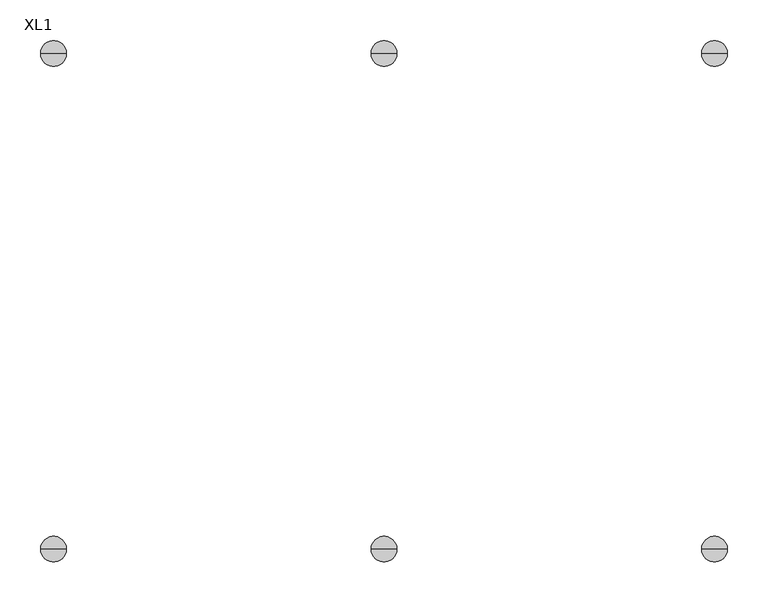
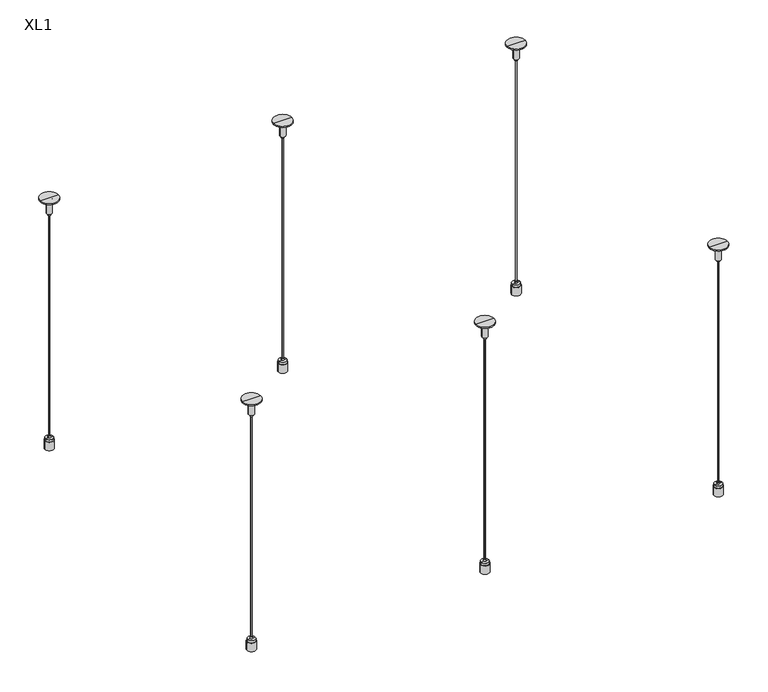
"""IFC4 building model written with IfcOpenShell, lengths in millimetres: proxy geometry, OWA Corpus : XL1."""

from ifc_helpers import new_model, si_unit, point, frame, frame_2d, origin, place, context, project, spatial, polyline, circle_curve, trimmed, segment, composite_curve, outline, extrude, source, transform, mapped, element, save
from ifc_brep_helpers import plane_surface, cylinder_surface, revolved_surface, advanced_brep


def xl1_91a5b90b(model_context):
    return source(origin(), model_context, "Body", "SolidModel", [
        advanced_brep(
        [(176.5, -305.0, 0.0), (184.2406175, -305.0, 0.0), (168.7593825, -305.0, 0.0), (184.2406175, -305.0, 15.0), (168.7593825, -305.0, 15.0), (183.3156175, -305.0, 15.0), (169.6843825, -305.0, 15.0), (183.3156175, -305.0, 19.0), (169.6843825, -305.0, 19.0), (178.5656175, -305.0, 19.0), (174.4343825, -305.0, 19.0), (178.5656175, -305.0, 22.546183), (174.4343825, -305.0, 22.546183), (176.5, -305.0, 22.546183)],
        [
            (0, 1),
            (1, 2, circle_curve(frame((176.5, -305.0, 0.0), z_axis=(0.0, 0.0, -1.0), x_axis=(-1.0, 0.0, 0.0)), 7.7406175)),
            (2, 0),
            (2, 1, circle_curve(frame((176.5, -305.0, 0.0), z_axis=(0.0, 0.0, -1.0), x_axis=(-1.0, 0.0, 0.0)), 7.7406175)),
            (1, 3),
            (3, 4, circle_curve(frame((176.5, -305.0, 15.0), z_axis=(0.0, 0.0, -1.0), x_axis=(-1.0, 0.0, 0.0)), 7.7406175)),
            (4, 2),
            (4, 3, circle_curve(frame((176.5, -305.0, 15.0), z_axis=(0.0, 0.0, -1.0), x_axis=(-1.0, 0.0, 0.0)), 7.7406175)),
            (3, 5),
            (5, 6, circle_curve(frame((176.5, -305.0, 15.0), z_axis=(0.0, 0.0, -1.0), x_axis=(-1.0, 0.0, 0.0)), 6.8156175)),
            (6, 4),
            (6, 5, circle_curve(frame((176.5, -305.0, 15.0), z_axis=(0.0, 0.0, -1.0), x_axis=(-1.0, 0.0, 0.0)), 6.8156175)),
            (5, 7),
            (7, 8, circle_curve(frame((176.5, -305.0, 19.0), z_axis=(0.0, 0.0, -1.0), x_axis=(-1.0, 0.0, 0.0)), 6.8156175)),
            (8, 6),
            (8, 7, circle_curve(frame((176.5, -305.0, 19.0), z_axis=(0.0, 0.0, -1.0), x_axis=(-1.0, 0.0, 0.0)), 6.8156175)),
            (7, 9),
            (9, 10, circle_curve(frame((176.5, -305.0, 19.0), z_axis=(0.0, 0.0, -1.0), x_axis=(-1.0, 0.0, 0.0)), 2.0656175)),
            (10, 8),
            (10, 9, circle_curve(frame((176.5, -305.0, 19.0), z_axis=(0.0, 0.0, -1.0), x_axis=(-1.0, 0.0, 0.0)), 2.0656175)),
            (9, 11),
            (11, 12, circle_curve(frame((176.5, -305.0, 22.546183), z_axis=(0.0, 0.0, -1.0), x_axis=(-1.0, 0.0, 0.0)), 2.0656175)),
            (12, 10),
            (12, 11, circle_curve(frame((176.5, -305.0, 22.546183), z_axis=(0.0, 0.0, -1.0), x_axis=(-1.0, 0.0, 0.0)), 2.0656175)),
            (11, 13),
            (13, 12),
        ],
        [
            plane_surface(frame((176.5, -305.0, 0.0), z_axis=(0.0, 0.0, -1.0), x_axis=(-1.0, 0.0, 0.0))),
            cylinder_surface(frame((176.5, -305.0, -10.0), z_axis=(0.0, 0.0, -1.0), x_axis=(-1.0, 0.0, 0.0)), 7.7406175),
            plane_surface(frame((176.5, -305.0, 15.0), z_axis=(0.0, 0.0, 1.0), x_axis=(-1.0, 0.0, 0.0))),
            cylinder_surface(frame((176.5, -305.0, -10.0), z_axis=(0.0, 0.0, -1.0), x_axis=(-1.0, 0.0, 0.0)), 6.8156175),
            plane_surface(frame((176.5, -305.0, 19.0), z_axis=(0.0, 0.0, 1.0), x_axis=(-1.0, 0.0, 0.0))),
            cylinder_surface(frame((176.5, -305.0, -10.0), z_axis=(0.0, 0.0, -1.0), x_axis=(-1.0, 0.0, 0.0)), 2.0656175),
            plane_surface(frame((176.5, -305.0, 22.546183), z_axis=(0.0, 0.0, 1.0), x_axis=(-1.0, 0.0, 0.0))),
        ],
        [
            (0, [[1, 2, 3]]),
            (0, [[-3, 4, -1]]),
            (1, [[5, 6, 7, -2]]),
            (1, [[-7, 8, -5, -4]]),
            (2, [[9, 10, 11, -6]]),
            (2, [[-11, 12, -9, -8]]),
            (3, [[13, 14, 15, -10]]),
            (3, [[-15, 16, -13, -12]]),
            (4, [[17, 18, 19, -14]]),
            (4, [[-19, 20, -17, -16]]),
            (5, [[21, 22, 23, -18]]),
            (5, [[-23, 24, -21, -20]]),
            (6, [[25, 26, -22]]),
            (6, [[-26, -25, -24]]),
        ],
    ),
        advanced_brep(
        [(178.7384611, -305.0, 428.8211737), (178.8660547, -305.0, 432.8711737), (174.1339453, -305.0, 432.8711737), (174.2615389, -305.0, 428.8211737), (181.3660547, -305.0, 432.8711737), (171.6339453, -305.0, 432.8711737), (181.3660547, -305.0, 458.1211737), (171.6339453, -305.0, 458.1211737), (192.3660547, -305.0, 458.1211737), (160.6339453, -305.0, 458.1211737), (192.3660547, -305.0, 460.0), (160.6339453, -305.0, 460.0), (176.5, -305.0, 460.0), (176.5, -305.0, 428.8211737)],
        [
            (0, 1),
            (1, 2, circle_curve(frame((176.5, -305.0, 432.8711737), z_axis=(0.0, 0.0, -1.0), x_axis=(-1.0, 0.0, 0.0)), 2.3660547)),
            (2, 3),
            (3, 0, circle_curve(frame((176.5, -305.0, 428.8211737), z_axis=(0.0, 0.0, 1.0), x_axis=(-1.0, 0.0, 0.0)), 2.2384611)),
            (2, 1, circle_curve(frame((176.5, -305.0, 432.8711737), z_axis=(0.0, 0.0, -1.0), x_axis=(-1.0, 0.0, 0.0)), 2.3660547)),
            (0, 3, circle_curve(frame((176.5, -305.0, 428.8211737), z_axis=(0.0, 0.0, 1.0), x_axis=(-1.0, 0.0, 0.0)), 2.2384611)),
            (1, 4),
            (4, 5, circle_curve(frame((176.5, -305.0, 432.8711737), z_axis=(0.0, 0.0, -1.0), x_axis=(-1.0, 0.0, 0.0)), 4.8660547)),
            (5, 2),
            (5, 4, circle_curve(frame((176.5, -305.0, 432.8711737), z_axis=(0.0, 0.0, -1.0), x_axis=(-1.0, 0.0, 0.0)), 4.8660547)),
            (4, 6),
            (6, 7, circle_curve(frame((176.5, -305.0, 458.1211737), z_axis=(0.0, 0.0, -1.0), x_axis=(-1.0, 0.0, 0.0)), 4.8660547)),
            (7, 5),
            (7, 6, circle_curve(frame((176.5, -305.0, 458.1211737), z_axis=(0.0, 0.0, -1.0), x_axis=(-1.0, 0.0, 0.0)), 4.8660547)),
            (6, 8),
            (8, 9, circle_curve(frame((176.5, -305.0, 458.1211737), z_axis=(0.0, 0.0, -1.0), x_axis=(-1.0, 0.0, 0.0)), 15.8660547)),
            (9, 7),
            (9, 8, circle_curve(frame((176.5, -305.0, 458.1211737), z_axis=(0.0, 0.0, -1.0), x_axis=(-1.0, 0.0, 0.0)), 15.8660547)),
            (8, 10),
            (10, 11, circle_curve(frame((176.5, -305.0, 460.0), z_axis=(0.0, 0.0, -1.0), x_axis=(-1.0, 0.0, 0.0)), 15.8660547)),
            (11, 9),
            (11, 10, circle_curve(frame((176.5, -305.0, 460.0), z_axis=(0.0, 0.0, -1.0), x_axis=(-1.0, 0.0, 0.0)), 15.8660547)),
            (10, 12),
            (12, 11),
            (13, 0),
            (3, 13),
        ],
        [
            revolved_surface(polyline([(174.1339453, -305.0, 432.8711737), (174.2615389, -305.0, 428.8211737)]), (176.5, -305.0, 461.8401096), (0.0, 0.0, -1.0)),
            plane_surface(frame((176.5, -305.0, 432.8711737), z_axis=(0.0, 0.0, -1.0), x_axis=(-1.0, 0.0, 0.0))),
            cylinder_surface(frame((176.5, -305.0, 461.8401096), z_axis=(0.0, 0.0, -1.0), x_axis=(-1.0, 0.0, 0.0)), 4.8660547),
            plane_surface(frame((176.5, -305.0, 458.1211737), z_axis=(0.0, 0.0, -1.0), x_axis=(-1.0, 0.0, 0.0))),
            cylinder_surface(frame((176.5, -305.0, 461.8401096), z_axis=(0.0, 0.0, -1.0), x_axis=(-1.0, 0.0, 0.0)), 15.8660547),
            plane_surface(frame((176.5, -305.0, 460.0), z_axis=(0.0, 0.0, 1.0), x_axis=(-1.0, 0.0, 0.0))),
            plane_surface(frame((176.5, -305.0, 428.8211737), z_axis=(0.0, 0.0, -1.0), x_axis=(-1.0, 0.0, 0.0))),
        ],
        [
            (0, [[1, 2, 3, 4]]),
            (0, [[-3, 5, -1, 6]]),
            (1, [[7, 8, 9, -2]]),
            (1, [[-9, 10, -7, -5]]),
            (2, [[11, 12, 13, -8]]),
            (2, [[-13, 14, -11, -10]]),
            (3, [[15, 16, 17, -12]]),
            (3, [[-17, 18, -15, -14]]),
            (4, [[19, 20, 21, -16]]),
            (4, [[-21, 22, -19, -18]]),
            (5, [[23, 24, -20]]),
            (5, [[-24, -23, -22]]),
            (6, [[25, -4, 26]]),
            (6, [[-26, -6, -25]]),
        ],
    ),
        extrude(outline(composite_curve([segment(trimmed(circle_curve(frame_2d((176.5, -305.0)), 1.0), [point((175.5, -305.0))], [point((177.5, -305.0))], False, "CARTESIAN"), True, "CONTINUOUS"), segment(trimmed(circle_curve(frame_2d((176.5, -305.0)), 1.0), [point((177.5, -305.0))], [point((175.5, -305.0))], False, "CARTESIAN"), True, "CONTINUOUS")], self_intersect=False)), frame((0.0, 0.0, 22.546183), z_axis=(0.0, 0.0, 1.0), x_axis=(1.0, 0.0, 0.0)), (0.0, 0.0, 1.0), 406.2749908),
        advanced_brep(
        [(176.5, 305.0, 0.0), (168.7593825, 305.0, 0.0), (184.2406175, 305.0, 0.0), (168.7593825, 305.0, 15.0), (184.2406175, 305.0, 15.0), (169.6843825, 305.0, 15.0), (183.3156175, 305.0, 15.0), (169.6843825, 305.0, 19.0), (183.3156175, 305.0, 19.0), (174.4343825, 305.0, 19.0), (178.5656175, 305.0, 19.0), (174.4343825, 305.0, 22.546183), (178.5656175, 305.0, 22.546183), (176.5, 305.0, 22.546183)],
        [
            (0, 1),
            (1, 2, circle_curve(frame((176.5, 305.0, 0.0), z_axis=(0.0, 0.0, -1.0), x_axis=(-1.0, 0.0, 0.0)), 7.7406175)),
            (2, 0),
            (2, 1, circle_curve(frame((176.5, 305.0, 0.0), z_axis=(0.0, 0.0, -1.0), x_axis=(-1.0, 0.0, 0.0)), 7.7406175)),
            (1, 3),
            (3, 4, circle_curve(frame((176.5, 305.0, 15.0), z_axis=(0.0, 0.0, -1.0), x_axis=(-1.0, 0.0, 0.0)), 7.7406175)),
            (4, 2),
            (4, 3, circle_curve(frame((176.5, 305.0, 15.0), z_axis=(0.0, 0.0, -1.0), x_axis=(-1.0, 0.0, 0.0)), 7.7406175)),
            (3, 5),
            (5, 6, circle_curve(frame((176.5, 305.0, 15.0), z_axis=(0.0, 0.0, -1.0), x_axis=(-1.0, 0.0, 0.0)), 6.8156175)),
            (6, 4),
            (6, 5, circle_curve(frame((176.5, 305.0, 15.0), z_axis=(0.0, 0.0, -1.0), x_axis=(-1.0, 0.0, 0.0)), 6.8156175)),
            (5, 7),
            (7, 8, circle_curve(frame((176.5, 305.0, 19.0), z_axis=(0.0, 0.0, -1.0), x_axis=(-1.0, 0.0, 0.0)), 6.8156175)),
            (8, 6),
            (8, 7, circle_curve(frame((176.5, 305.0, 19.0), z_axis=(0.0, 0.0, -1.0), x_axis=(-1.0, 0.0, 0.0)), 6.8156175)),
            (7, 9),
            (9, 10, circle_curve(frame((176.5, 305.0, 19.0), z_axis=(0.0, 0.0, -1.0), x_axis=(-1.0, 0.0, 0.0)), 2.0656175)),
            (10, 8),
            (10, 9, circle_curve(frame((176.5, 305.0, 19.0), z_axis=(0.0, 0.0, -1.0), x_axis=(-1.0, 0.0, 0.0)), 2.0656175)),
            (9, 11),
            (11, 12, circle_curve(frame((176.5, 305.0, 22.546183), z_axis=(0.0, 0.0, -1.0), x_axis=(-1.0, 0.0, 0.0)), 2.0656175)),
            (12, 10),
            (12, 11, circle_curve(frame((176.5, 305.0, 22.546183), z_axis=(0.0, 0.0, -1.0), x_axis=(-1.0, 0.0, 0.0)), 2.0656175)),
            (11, 13),
            (13, 12),
        ],
        [
            plane_surface(frame((176.5, 305.0, 0.0), z_axis=(0.0, 0.0, -1.0), x_axis=(-1.0, 0.0, 0.0))),
            cylinder_surface(frame((176.5, 305.0, -10.0), z_axis=(0.0, 0.0, -1.0), x_axis=(-1.0, 0.0, 0.0)), 7.7406175),
            plane_surface(frame((176.5, 305.0, 15.0), z_axis=(0.0, 0.0, 1.0), x_axis=(-1.0, 0.0, 0.0))),
            cylinder_surface(frame((176.5, 305.0, -10.0), z_axis=(0.0, 0.0, -1.0), x_axis=(-1.0, 0.0, 0.0)), 6.8156175),
            plane_surface(frame((176.5, 305.0, 19.0), z_axis=(0.0, 0.0, 1.0), x_axis=(-1.0, 0.0, 0.0))),
            cylinder_surface(frame((176.5, 305.0, -10.0), z_axis=(0.0, 0.0, -1.0), x_axis=(-1.0, 0.0, 0.0)), 2.0656175),
            plane_surface(frame((176.5, 305.0, 22.546183), z_axis=(0.0, 0.0, 1.0), x_axis=(-1.0, 0.0, 0.0))),
        ],
        [
            (0, [[1, 2, 3]]),
            (0, [[-3, 4, -1]]),
            (1, [[-2, 5, 6, 7]]),
            (1, [[-4, -7, 8, -5]]),
            (2, [[-6, 9, 10, 11]]),
            (2, [[-8, -11, 12, -9]]),
            (3, [[-10, 13, 14, 15]]),
            (3, [[-12, -15, 16, -13]]),
            (4, [[-14, 17, 18, 19]]),
            (4, [[-16, -19, 20, -17]]),
            (5, [[-18, 21, 22, 23]]),
            (5, [[-20, -23, 24, -21]]),
            (6, [[-22, 25, 26]]),
            (6, [[-24, -26, -25]]),
        ],
    ),
        advanced_brep(
        [(178.7384611, 305.0, 428.8211737), (174.2615389, 305.0, 428.8211737), (174.1339453, 305.0, 432.8711737), (178.8660547, 305.0, 432.8711737), (171.6339453, 305.0, 432.8711737), (181.3660547, 305.0, 432.8711737), (171.6339453, 305.0, 458.1211737), (181.3660547, 305.0, 458.1211737), (160.6339453, 305.0, 458.1211737), (192.3660547, 305.0, 458.1211737), (160.6339453, 305.0, 460.0), (192.3660547, 305.0, 460.0), (176.5, 305.0, 460.0), (176.5, 305.0, 428.8211737)],
        [
            (0, 1, circle_curve(frame((176.5, 305.0, 428.8211737), z_axis=(0.0, 0.0, 1.0), x_axis=(-1.0, 0.0, 0.0)), 2.2384611)),
            (1, 2),
            (2, 3, circle_curve(frame((176.5, 305.0, 432.8711737), z_axis=(0.0, 0.0, -1.0), x_axis=(-1.0, 0.0, 0.0)), 2.3660547)),
            (3, 0),
            (1, 0, circle_curve(frame((176.5, 305.0, 428.8211737), z_axis=(0.0, 0.0, 1.0), x_axis=(-1.0, 0.0, 0.0)), 2.2384611)),
            (3, 2, circle_curve(frame((176.5, 305.0, 432.8711737), z_axis=(0.0, 0.0, -1.0), x_axis=(-1.0, 0.0, 0.0)), 2.3660547)),
            (2, 4),
            (4, 5, circle_curve(frame((176.5, 305.0, 432.8711737), z_axis=(0.0, 0.0, -1.0), x_axis=(-1.0, 0.0, 0.0)), 4.8660547)),
            (5, 3),
            (5, 4, circle_curve(frame((176.5, 305.0, 432.8711737), z_axis=(0.0, 0.0, -1.0), x_axis=(-1.0, 0.0, 0.0)), 4.8660547)),
            (4, 6),
            (6, 7, circle_curve(frame((176.5, 305.0, 458.1211737), z_axis=(0.0, 0.0, -1.0), x_axis=(-1.0, 0.0, 0.0)), 4.8660547)),
            (7, 5),
            (7, 6, circle_curve(frame((176.5, 305.0, 458.1211737), z_axis=(0.0, 0.0, -1.0), x_axis=(-1.0, 0.0, 0.0)), 4.8660547)),
            (6, 8),
            (8, 9, circle_curve(frame((176.5, 305.0, 458.1211737), z_axis=(0.0, 0.0, -1.0), x_axis=(-1.0, 0.0, 0.0)), 15.8660547)),
            (9, 7),
            (9, 8, circle_curve(frame((176.5, 305.0, 458.1211737), z_axis=(0.0, 0.0, -1.0), x_axis=(-1.0, 0.0, 0.0)), 15.8660547)),
            (8, 10),
            (10, 11, circle_curve(frame((176.5, 305.0, 460.0), z_axis=(0.0, 0.0, -1.0), x_axis=(-1.0, 0.0, 0.0)), 15.8660547)),
            (11, 9),
            (11, 10, circle_curve(frame((176.5, 305.0, 460.0), z_axis=(0.0, 0.0, -1.0), x_axis=(-1.0, 0.0, 0.0)), 15.8660547)),
            (10, 12),
            (12, 11),
            (13, 1),
            (0, 13),
        ],
        [
            revolved_surface(polyline([(174.1339453, 305.0, 432.8711737), (174.2615389, 305.0, 428.8211737)]), (176.5, 305.0, 461.8401096), (0.0, 0.0, -1.0)),
            plane_surface(frame((176.5, 305.0, 432.8711737), z_axis=(0.0, 0.0, -1.0), x_axis=(-1.0, 0.0, 0.0))),
            cylinder_surface(frame((176.5, 305.0, 461.8401096), z_axis=(0.0, 0.0, -1.0), x_axis=(-1.0, 0.0, 0.0)), 4.8660547),
            plane_surface(frame((176.5, 305.0, 458.1211737), z_axis=(0.0, 0.0, -1.0), x_axis=(-1.0, 0.0, 0.0))),
            cylinder_surface(frame((176.5, 305.0, 461.8401096), z_axis=(0.0, 0.0, -1.0), x_axis=(-1.0, 0.0, 0.0)), 15.8660547),
            plane_surface(frame((176.5, 305.0, 460.0), z_axis=(0.0, 0.0, 1.0), x_axis=(-1.0, 0.0, 0.0))),
            plane_surface(frame((176.5, 305.0, 428.8211737), z_axis=(0.0, 0.0, -1.0), x_axis=(-1.0, 0.0, 0.0))),
        ],
        [
            (0, [[1, 2, 3, 4]]),
            (0, [[5, -4, 6, -2]]),
            (1, [[-3, 7, 8, 9]]),
            (1, [[-6, -9, 10, -7]]),
            (2, [[-8, 11, 12, 13]]),
            (2, [[-10, -13, 14, -11]]),
            (3, [[-12, 15, 16, 17]]),
            (3, [[-14, -17, 18, -15]]),
            (4, [[-16, 19, 20, 21]]),
            (4, [[-18, -21, 22, -19]]),
            (5, [[-20, 23, 24]]),
            (5, [[-22, -24, -23]]),
            (6, [[25, -1, 26]]),
            (6, [[-26, -5, -25]]),
        ],
    ),
        extrude(outline(composite_curve([segment(trimmed(circle_curve(frame_2d((176.5, 305.0)), 1.0), [point((175.5, 305.0))], [point((177.5, 305.0))], False, "CARTESIAN"), True, "CONTINUOUS"), segment(trimmed(circle_curve(frame_2d((176.5, 305.0)), 1.0), [point((177.5, 305.0))], [point((175.5, 305.0))], False, "CARTESIAN"), True, "CONTINUOUS")], self_intersect=False)), frame((0.0, 0.0, 22.546183), z_axis=(0.0, 0.0, 1.0), x_axis=(1.0, 0.0, 0.0)), (0.0, 0.0, 1.0), 406.2749908),
        advanced_brep(
        [(-230.1666667, -305.0, 0.0), (-222.4260492, -305.0, 0.0), (-237.9072842, -305.0, 0.0), (-222.4260492, -305.0, 15.0), (-237.9072842, -305.0, 15.0), (-223.3510492, -305.0, 15.0), (-236.9822842, -305.0, 15.0), (-223.3510492, -305.0, 19.0), (-236.9822842, -305.0, 19.0), (-228.1010492, -305.0, 19.0), (-232.2322842, -305.0, 19.0), (-228.1010492, -305.0, 22.546183), (-232.2322842, -305.0, 22.546183), (-230.1666667, -305.0, 22.546183)],
        [
            (0, 1),
            (1, 2, circle_curve(frame((-230.1666667, -305.0, 0.0), z_axis=(0.0, 0.0, -1.0), x_axis=(-1.0, 0.0, 0.0)), 7.7406175)),
            (2, 0),
            (2, 1, circle_curve(frame((-230.1666667, -305.0, 0.0), z_axis=(0.0, 0.0, -1.0), x_axis=(-1.0, 0.0, 0.0)), 7.7406175)),
            (1, 3),
            (3, 4, circle_curve(frame((-230.1666667, -305.0, 15.0), z_axis=(0.0, 0.0, -1.0), x_axis=(-1.0, 0.0, 0.0)), 7.7406175)),
            (4, 2),
            (4, 3, circle_curve(frame((-230.1666667, -305.0, 15.0), z_axis=(0.0, 0.0, -1.0), x_axis=(-1.0, 0.0, 0.0)), 7.7406175)),
            (3, 5),
            (5, 6, circle_curve(frame((-230.1666667, -305.0, 15.0), z_axis=(0.0, 0.0, -1.0), x_axis=(-1.0, 0.0, 0.0)), 6.8156175)),
            (6, 4),
            (6, 5, circle_curve(frame((-230.1666667, -305.0, 15.0), z_axis=(0.0, 0.0, -1.0), x_axis=(-1.0, 0.0, 0.0)), 6.8156175)),
            (5, 7),
            (7, 8, circle_curve(frame((-230.1666667, -305.0, 19.0), z_axis=(0.0, 0.0, -1.0), x_axis=(-1.0, 0.0, 0.0)), 6.8156175)),
            (8, 6),
            (8, 7, circle_curve(frame((-230.1666667, -305.0, 19.0), z_axis=(0.0, 0.0, -1.0), x_axis=(-1.0, 0.0, 0.0)), 6.8156175)),
            (7, 9),
            (9, 10, circle_curve(frame((-230.1666667, -305.0, 19.0), z_axis=(0.0, 0.0, -1.0), x_axis=(-1.0, 0.0, 0.0)), 2.0656175)),
            (10, 8),
            (10, 9, circle_curve(frame((-230.1666667, -305.0, 19.0), z_axis=(0.0, 0.0, -1.0), x_axis=(-1.0, 0.0, 0.0)), 2.0656175)),
            (9, 11),
            (11, 12, circle_curve(frame((-230.1666667, -305.0, 22.546183), z_axis=(0.0, 0.0, -1.0), x_axis=(-1.0, 0.0, 0.0)), 2.0656175)),
            (12, 10),
            (12, 11, circle_curve(frame((-230.1666667, -305.0, 22.546183), z_axis=(0.0, 0.0, -1.0), x_axis=(-1.0, 0.0, 0.0)), 2.0656175)),
            (11, 13),
            (13, 12),
        ],
        [
            plane_surface(frame((-230.1666667, -305.0, 0.0), z_axis=(0.0, 0.0, -1.0), x_axis=(-1.0, 0.0, 0.0))),
            cylinder_surface(frame((-230.1666667, -305.0, -10.0), z_axis=(0.0, 0.0, -1.0), x_axis=(-1.0, 0.0, 0.0)), 7.7406175),
            plane_surface(frame((-230.1666667, -305.0, 15.0), z_axis=(0.0, 0.0, 1.0), x_axis=(-1.0, 0.0, 0.0))),
            cylinder_surface(frame((-230.1666667, -305.0, -10.0), z_axis=(0.0, 0.0, -1.0), x_axis=(-1.0, 0.0, 0.0)), 6.8156175),
            plane_surface(frame((-230.1666667, -305.0, 19.0), z_axis=(0.0, 0.0, 1.0), x_axis=(-1.0, 0.0, 0.0))),
            cylinder_surface(frame((-230.1666667, -305.0, -10.0), z_axis=(0.0, 0.0, -1.0), x_axis=(-1.0, 0.0, 0.0)), 2.0656175),
            plane_surface(frame((-230.1666667, -305.0, 22.546183), z_axis=(0.0, 0.0, 1.0), x_axis=(-1.0, 0.0, 0.0))),
        ],
        [
            (0, [[1, 2, 3]]),
            (0, [[-3, 4, -1]]),
            (1, [[5, 6, 7, -2]]),
            (1, [[-7, 8, -5, -4]]),
            (2, [[9, 10, 11, -6]]),
            (2, [[-11, 12, -9, -8]]),
            (3, [[13, 14, 15, -10]]),
            (3, [[-15, 16, -13, -12]]),
            (4, [[17, 18, 19, -14]]),
            (4, [[-19, 20, -17, -16]]),
            (5, [[21, 22, 23, -18]]),
            (5, [[-23, 24, -21, -20]]),
            (6, [[25, 26, -22]]),
            (6, [[-26, -25, -24]]),
        ],
    ),
        advanced_brep(
        [(-227.9282056, -305.0, 428.8211737), (-227.800612, -305.0, 432.8711737), (-232.5327213, -305.0, 432.8711737), (-232.4051277, -305.0, 428.8211737), (-225.300612, -305.0, 432.8711737), (-235.0327213, -305.0, 432.8711737), (-225.300612, -305.0, 458.1211737), (-235.0327213, -305.0, 458.1211737), (-214.300612, -305.0, 458.1211737), (-246.0327213, -305.0, 458.1211737), (-214.300612, -305.0, 460.0), (-246.0327213, -305.0, 460.0), (-230.1666667, -305.0, 460.0), (-230.1666667, -305.0, 428.8211737)],
        [
            (0, 1),
            (1, 2, circle_curve(frame((-230.1666667, -305.0, 432.8711737), z_axis=(0.0, 0.0, -1.0), x_axis=(-1.0, 0.0, 0.0)), 2.3660547)),
            (2, 3),
            (3, 0, circle_curve(frame((-230.1666667, -305.0, 428.8211737), z_axis=(0.0, 0.0, 1.0), x_axis=(-1.0, 0.0, 0.0)), 2.2384611)),
            (2, 1, circle_curve(frame((-230.1666667, -305.0, 432.8711737), z_axis=(0.0, 0.0, -1.0), x_axis=(-1.0, 0.0, 0.0)), 2.3660547)),
            (0, 3, circle_curve(frame((-230.1666667, -305.0, 428.8211737), z_axis=(0.0, 0.0, 1.0), x_axis=(-1.0, 0.0, 0.0)), 2.2384611)),
            (1, 4),
            (4, 5, circle_curve(frame((-230.1666667, -305.0, 432.8711737), z_axis=(0.0, 0.0, -1.0), x_axis=(-1.0, 0.0, 0.0)), 4.8660547)),
            (5, 2),
            (5, 4, circle_curve(frame((-230.1666667, -305.0, 432.8711737), z_axis=(0.0, 0.0, -1.0), x_axis=(-1.0, 0.0, 0.0)), 4.8660547)),
            (4, 6),
            (6, 7, circle_curve(frame((-230.1666667, -305.0, 458.1211737), z_axis=(0.0, 0.0, -1.0), x_axis=(-1.0, 0.0, 0.0)), 4.8660547)),
            (7, 5),
            (7, 6, circle_curve(frame((-230.1666667, -305.0, 458.1211737), z_axis=(0.0, 0.0, -1.0), x_axis=(-1.0, 0.0, 0.0)), 4.8660547)),
            (6, 8),
            (8, 9, circle_curve(frame((-230.1666667, -305.0, 458.1211737), z_axis=(0.0, 0.0, -1.0), x_axis=(-1.0, 0.0, 0.0)), 15.8660547)),
            (9, 7),
            (9, 8, circle_curve(frame((-230.1666667, -305.0, 458.1211737), z_axis=(0.0, 0.0, -1.0), x_axis=(-1.0, 0.0, 0.0)), 15.8660547)),
            (8, 10),
            (10, 11, circle_curve(frame((-230.1666667, -305.0, 460.0), z_axis=(0.0, 0.0, -1.0), x_axis=(-1.0, 0.0, 0.0)), 15.8660547)),
            (11, 9),
            (11, 10, circle_curve(frame((-230.1666667, -305.0, 460.0), z_axis=(0.0, 0.0, -1.0), x_axis=(-1.0, 0.0, 0.0)), 15.8660547)),
            (10, 12),
            (12, 11),
            (13, 0),
            (3, 13),
        ],
        [
            revolved_surface(polyline([(-232.5327213, -305.0, 432.8711737), (-232.4051277, -305.0, 428.8211737)]), (-230.1666667, -305.0, 461.8401096), (0.0, 0.0, -1.0)),
            plane_surface(frame((-230.1666667, -305.0, 432.8711737), z_axis=(0.0, 0.0, -1.0), x_axis=(-1.0, 0.0, 0.0))),
            cylinder_surface(frame((-230.1666667, -305.0, 461.8401096), z_axis=(0.0, 0.0, -1.0), x_axis=(-1.0, 0.0, 0.0)), 4.8660547),
            plane_surface(frame((-230.1666667, -305.0, 458.1211737), z_axis=(0.0, 0.0, -1.0), x_axis=(-1.0, 0.0, 0.0))),
            cylinder_surface(frame((-230.1666667, -305.0, 461.8401096), z_axis=(0.0, 0.0, -1.0), x_axis=(-1.0, 0.0, 0.0)), 15.8660547),
            plane_surface(frame((-230.1666667, -305.0, 460.0), z_axis=(0.0, 0.0, 1.0), x_axis=(-1.0, 0.0, 0.0))),
            plane_surface(frame((-230.1666667, -305.0, 428.8211737), z_axis=(0.0, 0.0, -1.0), x_axis=(-1.0, 0.0, 0.0))),
        ],
        [
            (0, [[1, 2, 3, 4]]),
            (0, [[-3, 5, -1, 6]]),
            (1, [[7, 8, 9, -2]]),
            (1, [[-9, 10, -7, -5]]),
            (2, [[11, 12, 13, -8]]),
            (2, [[-13, 14, -11, -10]]),
            (3, [[15, 16, 17, -12]]),
            (3, [[-17, 18, -15, -14]]),
            (4, [[19, 20, 21, -16]]),
            (4, [[-21, 22, -19, -18]]),
            (5, [[23, 24, -20]]),
            (5, [[-24, -23, -22]]),
            (6, [[25, -4, 26]]),
            (6, [[-26, -6, -25]]),
        ],
    ),
        extrude(outline(composite_curve([segment(trimmed(circle_curve(frame_2d((-230.1666667, -305.0)), 1.0), [point((-231.1666667, -305.0))], [point((-229.1666667, -305.0))], False, "CARTESIAN"), True, "CONTINUOUS"), segment(trimmed(circle_curve(frame_2d((-230.1666667, -305.0)), 1.0), [point((-229.1666667, -305.0))], [point((-231.1666667, -305.0))], False, "CARTESIAN"), True, "CONTINUOUS")], self_intersect=False)), frame((0.0, 0.0, 22.546183), z_axis=(0.0, 0.0, 1.0), x_axis=(1.0, 0.0, 0.0)), (0.0, 0.0, 1.0), 406.2749908),
        advanced_brep(
        [(-230.1666667, 305.0, 0.0), (-237.9072842, 305.0, 0.0), (-222.4260492, 305.0, 0.0), (-237.9072842, 305.0, 15.0), (-222.4260492, 305.0, 15.0), (-236.9822842, 305.0, 15.0), (-223.3510492, 305.0, 15.0), (-236.9822842, 305.0, 19.0), (-223.3510492, 305.0, 19.0), (-232.2322842, 305.0, 19.0), (-228.1010492, 305.0, 19.0), (-232.2322842, 305.0, 22.546183), (-228.1010492, 305.0, 22.546183), (-230.1666667, 305.0, 22.546183)],
        [
            (0, 1),
            (1, 2, circle_curve(frame((-230.1666667, 305.0, 0.0), z_axis=(0.0, 0.0, -1.0), x_axis=(-1.0, 0.0, 0.0)), 7.7406175)),
            (2, 0),
            (2, 1, circle_curve(frame((-230.1666667, 305.0, 0.0), z_axis=(0.0, 0.0, -1.0), x_axis=(-1.0, 0.0, 0.0)), 7.7406175)),
            (1, 3),
            (3, 4, circle_curve(frame((-230.1666667, 305.0, 15.0), z_axis=(0.0, 0.0, -1.0), x_axis=(-1.0, 0.0, 0.0)), 7.7406175)),
            (4, 2),
            (4, 3, circle_curve(frame((-230.1666667, 305.0, 15.0), z_axis=(0.0, 0.0, -1.0), x_axis=(-1.0, 0.0, 0.0)), 7.7406175)),
            (3, 5),
            (5, 6, circle_curve(frame((-230.1666667, 305.0, 15.0), z_axis=(0.0, 0.0, -1.0), x_axis=(-1.0, 0.0, 0.0)), 6.8156175)),
            (6, 4),
            (6, 5, circle_curve(frame((-230.1666667, 305.0, 15.0), z_axis=(0.0, 0.0, -1.0), x_axis=(-1.0, 0.0, 0.0)), 6.8156175)),
            (5, 7),
            (7, 8, circle_curve(frame((-230.1666667, 305.0, 19.0), z_axis=(0.0, 0.0, -1.0), x_axis=(-1.0, 0.0, 0.0)), 6.8156175)),
            (8, 6),
            (8, 7, circle_curve(frame((-230.1666667, 305.0, 19.0), z_axis=(0.0, 0.0, -1.0), x_axis=(-1.0, 0.0, 0.0)), 6.8156175)),
            (7, 9),
            (9, 10, circle_curve(frame((-230.1666667, 305.0, 19.0), z_axis=(0.0, 0.0, -1.0), x_axis=(-1.0, 0.0, 0.0)), 2.0656175)),
            (10, 8),
            (10, 9, circle_curve(frame((-230.1666667, 305.0, 19.0), z_axis=(0.0, 0.0, -1.0), x_axis=(-1.0, 0.0, 0.0)), 2.0656175)),
            (9, 11),
            (11, 12, circle_curve(frame((-230.1666667, 305.0, 22.546183), z_axis=(0.0, 0.0, -1.0), x_axis=(-1.0, 0.0, 0.0)), 2.0656175)),
            (12, 10),
            (12, 11, circle_curve(frame((-230.1666667, 305.0, 22.546183), z_axis=(0.0, 0.0, -1.0), x_axis=(-1.0, 0.0, 0.0)), 2.0656175)),
            (11, 13),
            (13, 12),
        ],
        [
            plane_surface(frame((-230.1666667, 305.0, 0.0), z_axis=(0.0, 0.0, -1.0), x_axis=(-1.0, 0.0, 0.0))),
            cylinder_surface(frame((-230.1666667, 305.0, -10.0), z_axis=(0.0, 0.0, -1.0), x_axis=(-1.0, 0.0, 0.0)), 7.7406175),
            plane_surface(frame((-230.1666667, 305.0, 15.0), z_axis=(0.0, 0.0, 1.0), x_axis=(-1.0, 0.0, 0.0))),
            cylinder_surface(frame((-230.1666667, 305.0, -10.0), z_axis=(0.0, 0.0, -1.0), x_axis=(-1.0, 0.0, 0.0)), 6.8156175),
            plane_surface(frame((-230.1666667, 305.0, 19.0), z_axis=(0.0, 0.0, 1.0), x_axis=(-1.0, 0.0, 0.0))),
            cylinder_surface(frame((-230.1666667, 305.0, -10.0), z_axis=(0.0, 0.0, -1.0), x_axis=(-1.0, 0.0, 0.0)), 2.0656175),
            plane_surface(frame((-230.1666667, 305.0, 22.546183), z_axis=(0.0, 0.0, 1.0), x_axis=(-1.0, 0.0, 0.0))),
        ],
        [
            (0, [[1, 2, 3]]),
            (0, [[-3, 4, -1]]),
            (1, [[-2, 5, 6, 7]]),
            (1, [[-4, -7, 8, -5]]),
            (2, [[-6, 9, 10, 11]]),
            (2, [[-8, -11, 12, -9]]),
            (3, [[-10, 13, 14, 15]]),
            (3, [[-12, -15, 16, -13]]),
            (4, [[-14, 17, 18, 19]]),
            (4, [[-16, -19, 20, -17]]),
            (5, [[-18, 21, 22, 23]]),
            (5, [[-20, -23, 24, -21]]),
            (6, [[-22, 25, 26]]),
            (6, [[-24, -26, -25]]),
        ],
    ),
        advanced_brep(
        [(-227.9282056, 305.0, 428.8211737), (-232.4051277, 305.0, 428.8211737), (-232.5327213, 305.0, 432.8711737), (-227.800612, 305.0, 432.8711737), (-235.0327213, 305.0, 432.8711737), (-225.300612, 305.0, 432.8711737), (-235.0327213, 305.0, 458.1211737), (-225.300612, 305.0, 458.1211737), (-246.0327213, 305.0, 458.1211737), (-214.300612, 305.0, 458.1211737), (-246.0327213, 305.0, 460.0), (-214.300612, 305.0, 460.0), (-230.1666667, 305.0, 460.0), (-230.1666667, 305.0, 428.8211737)],
        [
            (0, 1, circle_curve(frame((-230.1666667, 305.0, 428.8211737), z_axis=(0.0, 0.0, 1.0), x_axis=(-1.0, 0.0, 0.0)), 2.2384611)),
            (1, 2),
            (2, 3, circle_curve(frame((-230.1666667, 305.0, 432.8711737), z_axis=(0.0, 0.0, -1.0), x_axis=(-1.0, 0.0, 0.0)), 2.3660547)),
            (3, 0),
            (1, 0, circle_curve(frame((-230.1666667, 305.0, 428.8211737), z_axis=(0.0, 0.0, 1.0), x_axis=(-1.0, 0.0, 0.0)), 2.2384611)),
            (3, 2, circle_curve(frame((-230.1666667, 305.0, 432.8711737), z_axis=(0.0, 0.0, -1.0), x_axis=(-1.0, 0.0, 0.0)), 2.3660547)),
            (2, 4),
            (4, 5, circle_curve(frame((-230.1666667, 305.0, 432.8711737), z_axis=(0.0, 0.0, -1.0), x_axis=(-1.0, 0.0, 0.0)), 4.8660547)),
            (5, 3),
            (5, 4, circle_curve(frame((-230.1666667, 305.0, 432.8711737), z_axis=(0.0, 0.0, -1.0), x_axis=(-1.0, 0.0, 0.0)), 4.8660547)),
            (4, 6),
            (6, 7, circle_curve(frame((-230.1666667, 305.0, 458.1211737), z_axis=(0.0, 0.0, -1.0), x_axis=(-1.0, 0.0, 0.0)), 4.8660547)),
            (7, 5),
            (7, 6, circle_curve(frame((-230.1666667, 305.0, 458.1211737), z_axis=(0.0, 0.0, -1.0), x_axis=(-1.0, 0.0, 0.0)), 4.8660547)),
            (6, 8),
            (8, 9, circle_curve(frame((-230.1666667, 305.0, 458.1211737), z_axis=(0.0, 0.0, -1.0), x_axis=(-1.0, 0.0, 0.0)), 15.8660547)),
            (9, 7),
            (9, 8, circle_curve(frame((-230.1666667, 305.0, 458.1211737), z_axis=(0.0, 0.0, -1.0), x_axis=(-1.0, 0.0, 0.0)), 15.8660547)),
            (8, 10),
            (10, 11, circle_curve(frame((-230.1666667, 305.0, 460.0), z_axis=(0.0, 0.0, -1.0), x_axis=(-1.0, 0.0, 0.0)), 15.8660547)),
            (11, 9),
            (11, 10, circle_curve(frame((-230.1666667, 305.0, 460.0), z_axis=(0.0, 0.0, -1.0), x_axis=(-1.0, 0.0, 0.0)), 15.8660547)),
            (10, 12),
            (12, 11),
            (13, 1),
            (0, 13),
        ],
        [
            revolved_surface(polyline([(-232.5327213, 305.0, 432.8711737), (-232.4051277, 305.0, 428.8211737)]), (-230.1666667, 305.0, 461.8401096), (0.0, 0.0, -1.0)),
            plane_surface(frame((-230.1666667, 305.0, 432.8711737), z_axis=(0.0, 0.0, -1.0), x_axis=(-1.0, 0.0, 0.0))),
            cylinder_surface(frame((-230.1666667, 305.0, 461.8401096), z_axis=(0.0, 0.0, -1.0), x_axis=(-1.0, 0.0, 0.0)), 4.8660547),
            plane_surface(frame((-230.1666667, 305.0, 458.1211737), z_axis=(0.0, 0.0, -1.0), x_axis=(-1.0, 0.0, 0.0))),
            cylinder_surface(frame((-230.1666667, 305.0, 461.8401096), z_axis=(0.0, 0.0, -1.0), x_axis=(-1.0, 0.0, 0.0)), 15.8660547),
            plane_surface(frame((-230.1666667, 305.0, 460.0), z_axis=(0.0, 0.0, 1.0), x_axis=(-1.0, 0.0, 0.0))),
            plane_surface(frame((-230.1666667, 305.0, 428.8211737), z_axis=(0.0, 0.0, -1.0), x_axis=(-1.0, 0.0, 0.0))),
        ],
        [
            (0, [[1, 2, 3, 4]]),
            (0, [[5, -4, 6, -2]]),
            (1, [[-3, 7, 8, 9]]),
            (1, [[-6, -9, 10, -7]]),
            (2, [[-8, 11, 12, 13]]),
            (2, [[-10, -13, 14, -11]]),
            (3, [[-12, 15, 16, 17]]),
            (3, [[-14, -17, 18, -15]]),
            (4, [[-16, 19, 20, 21]]),
            (4, [[-18, -21, 22, -19]]),
            (5, [[-20, 23, 24]]),
            (5, [[-22, -24, -23]]),
            (6, [[25, -1, 26]]),
            (6, [[-26, -5, -25]]),
        ],
    ),
        extrude(outline(composite_curve([segment(trimmed(circle_curve(frame_2d((-230.1666667, 305.0)), 1.0), [point((-231.1666667, 305.0))], [point((-229.1666667, 305.0))], False, "CARTESIAN"), True, "CONTINUOUS"), segment(trimmed(circle_curve(frame_2d((-230.1666667, 305.0)), 1.0), [point((-229.1666667, 305.0))], [point((-231.1666667, 305.0))], False, "CARTESIAN"), True, "CONTINUOUS")], self_intersect=False)), frame((0.0, 0.0, 22.546183), z_axis=(0.0, 0.0, 1.0), x_axis=(1.0, 0.0, 0.0)), (0.0, 0.0, 1.0), 406.2749908),
        advanced_brep(
        [(-636.8333333, -305.0, 0.0), (-629.0927158, -305.0, 0.0), (-644.5739508, -305.0, 0.0), (-629.0927158, -305.0, 15.0), (-644.5739508, -305.0, 15.0), (-630.0177158, -305.0, 15.0), (-643.6489508, -305.0, 15.0), (-630.0177158, -305.0, 19.0), (-643.6489508, -305.0, 19.0), (-634.7677158, -305.0, 19.0), (-638.8989508, -305.0, 19.0), (-634.7677158, -305.0, 22.546183), (-638.8989508, -305.0, 22.546183), (-636.8333333, -305.0, 22.546183)],
        [
            (0, 1),
            (1, 2, circle_curve(frame((-636.8333333, -305.0, 0.0), z_axis=(0.0, 0.0, -1.0), x_axis=(-1.0, 0.0, 0.0)), 7.7406175)),
            (2, 0),
            (2, 1, circle_curve(frame((-636.8333333, -305.0, 0.0), z_axis=(0.0, 0.0, -1.0), x_axis=(-1.0, 0.0, 0.0)), 7.7406175)),
            (1, 3),
            (3, 4, circle_curve(frame((-636.8333333, -305.0, 15.0), z_axis=(0.0, 0.0, -1.0), x_axis=(-1.0, 0.0, 0.0)), 7.7406175)),
            (4, 2),
            (4, 3, circle_curve(frame((-636.8333333, -305.0, 15.0), z_axis=(0.0, 0.0, -1.0), x_axis=(-1.0, 0.0, 0.0)), 7.7406175)),
            (3, 5),
            (5, 6, circle_curve(frame((-636.8333333, -305.0, 15.0), z_axis=(0.0, 0.0, -1.0), x_axis=(-1.0, 0.0, 0.0)), 6.8156175)),
            (6, 4),
            (6, 5, circle_curve(frame((-636.8333333, -305.0, 15.0), z_axis=(0.0, 0.0, -1.0), x_axis=(-1.0, 0.0, 0.0)), 6.8156175)),
            (5, 7),
            (7, 8, circle_curve(frame((-636.8333333, -305.0, 19.0), z_axis=(0.0, 0.0, -1.0), x_axis=(-1.0, 0.0, 0.0)), 6.8156175)),
            (8, 6),
            (8, 7, circle_curve(frame((-636.8333333, -305.0, 19.0), z_axis=(0.0, 0.0, -1.0), x_axis=(-1.0, 0.0, 0.0)), 6.8156175)),
            (7, 9),
            (9, 10, circle_curve(frame((-636.8333333, -305.0, 19.0), z_axis=(0.0, 0.0, -1.0), x_axis=(-1.0, 0.0, 0.0)), 2.0656175)),
            (10, 8),
            (10, 9, circle_curve(frame((-636.8333333, -305.0, 19.0), z_axis=(0.0, 0.0, -1.0), x_axis=(-1.0, 0.0, 0.0)), 2.0656175)),
            (9, 11),
            (11, 12, circle_curve(frame((-636.8333333, -305.0, 22.546183), z_axis=(0.0, 0.0, -1.0), x_axis=(-1.0, 0.0, 0.0)), 2.0656175)),
            (12, 10),
            (12, 11, circle_curve(frame((-636.8333333, -305.0, 22.546183), z_axis=(0.0, 0.0, -1.0), x_axis=(-1.0, 0.0, 0.0)), 2.0656175)),
            (11, 13),
            (13, 12),
        ],
        [
            plane_surface(frame((-636.8333333, -305.0, 0.0), z_axis=(0.0, 0.0, -1.0), x_axis=(-1.0, 0.0, 0.0))),
            cylinder_surface(frame((-636.8333333, -305.0, -10.0), z_axis=(0.0, 0.0, -1.0), x_axis=(-1.0, 0.0, 0.0)), 7.7406175),
            plane_surface(frame((-636.8333333, -305.0, 15.0), z_axis=(0.0, 0.0, 1.0), x_axis=(-1.0, 0.0, 0.0))),
            cylinder_surface(frame((-636.8333333, -305.0, -10.0), z_axis=(0.0, 0.0, -1.0), x_axis=(-1.0, 0.0, 0.0)), 6.8156175),
            plane_surface(frame((-636.8333333, -305.0, 19.0), z_axis=(0.0, 0.0, 1.0), x_axis=(-1.0, 0.0, 0.0))),
            cylinder_surface(frame((-636.8333333, -305.0, -10.0), z_axis=(0.0, 0.0, -1.0), x_axis=(-1.0, 0.0, 0.0)), 2.0656175),
            plane_surface(frame((-636.8333333, -305.0, 22.546183), z_axis=(0.0, 0.0, 1.0), x_axis=(-1.0, 0.0, 0.0))),
        ],
        [
            (0, [[1, 2, 3]]),
            (0, [[-3, 4, -1]]),
            (1, [[5, 6, 7, -2]]),
            (1, [[-7, 8, -5, -4]]),
            (2, [[9, 10, 11, -6]]),
            (2, [[-11, 12, -9, -8]]),
            (3, [[13, 14, 15, -10]]),
            (3, [[-15, 16, -13, -12]]),
            (4, [[17, 18, 19, -14]]),
            (4, [[-19, 20, -17, -16]]),
            (5, [[21, 22, 23, -18]]),
            (5, [[-23, 24, -21, -20]]),
            (6, [[25, 26, -22]]),
            (6, [[-26, -25, -24]]),
        ],
    ),
        advanced_brep(
        [(-634.5948723, -305.0, 428.8211737), (-634.4672787, -305.0, 432.8711737), (-639.199388, -305.0, 432.8711737), (-639.0717944, -305.0, 428.8211737), (-631.9672787, -305.0, 432.8711737), (-641.699388, -305.0, 432.8711737), (-631.9672787, -305.0, 458.1211737), (-641.699388, -305.0, 458.1211737), (-620.9672787, -305.0, 458.1211737), (-652.699388, -305.0, 458.1211737), (-620.9672787, -305.0, 460.0), (-652.699388, -305.0, 460.0), (-636.8333333, -305.0, 460.0), (-636.8333333, -305.0, 428.8211737)],
        [
            (0, 1),
            (1, 2, circle_curve(frame((-636.8333333, -305.0, 432.8711737), z_axis=(0.0, 0.0, -1.0), x_axis=(-1.0, 0.0, 0.0)), 2.3660547)),
            (2, 3),
            (3, 0, circle_curve(frame((-636.8333333, -305.0, 428.8211737), z_axis=(0.0, 0.0, 1.0), x_axis=(-1.0, 0.0, 0.0)), 2.2384611)),
            (2, 1, circle_curve(frame((-636.8333333, -305.0, 432.8711737), z_axis=(0.0, 0.0, -1.0), x_axis=(-1.0, 0.0, 0.0)), 2.3660547)),
            (0, 3, circle_curve(frame((-636.8333333, -305.0, 428.8211737), z_axis=(0.0, 0.0, 1.0), x_axis=(-1.0, 0.0, 0.0)), 2.2384611)),
            (1, 4),
            (4, 5, circle_curve(frame((-636.8333333, -305.0, 432.8711737), z_axis=(0.0, 0.0, -1.0), x_axis=(-1.0, 0.0, 0.0)), 4.8660547)),
            (5, 2),
            (5, 4, circle_curve(frame((-636.8333333, -305.0, 432.8711737), z_axis=(0.0, 0.0, -1.0), x_axis=(-1.0, 0.0, 0.0)), 4.8660547)),
            (4, 6),
            (6, 7, circle_curve(frame((-636.8333333, -305.0, 458.1211737), z_axis=(0.0, 0.0, -1.0), x_axis=(-1.0, 0.0, 0.0)), 4.8660547)),
            (7, 5),
            (7, 6, circle_curve(frame((-636.8333333, -305.0, 458.1211737), z_axis=(0.0, 0.0, -1.0), x_axis=(-1.0, 0.0, 0.0)), 4.8660547)),
            (6, 8),
            (8, 9, circle_curve(frame((-636.8333333, -305.0, 458.1211737), z_axis=(0.0, 0.0, -1.0), x_axis=(-1.0, 0.0, 0.0)), 15.8660547)),
            (9, 7),
            (9, 8, circle_curve(frame((-636.8333333, -305.0, 458.1211737), z_axis=(0.0, 0.0, -1.0), x_axis=(-1.0, 0.0, 0.0)), 15.8660547)),
            (8, 10),
            (10, 11, circle_curve(frame((-636.8333333, -305.0, 460.0), z_axis=(0.0, 0.0, -1.0), x_axis=(-1.0, 0.0, 0.0)), 15.8660547)),
            (11, 9),
            (11, 10, circle_curve(frame((-636.8333333, -305.0, 460.0), z_axis=(0.0, 0.0, -1.0), x_axis=(-1.0, 0.0, 0.0)), 15.8660547)),
            (10, 12),
            (12, 11),
            (13, 0),
            (3, 13),
        ],
        [
            revolved_surface(polyline([(-639.199388, -305.0, 432.8711737), (-639.0717944, -305.0, 428.8211737)]), (-636.8333333, -305.0, 461.8401096), (0.0, 0.0, -1.0)),
            plane_surface(frame((-636.8333333, -305.0, 432.8711737), z_axis=(0.0, 0.0, -1.0), x_axis=(-1.0, 0.0, 0.0))),
            cylinder_surface(frame((-636.8333333, -305.0, 461.8401096), z_axis=(0.0, 0.0, -1.0), x_axis=(-1.0, 0.0, 0.0)), 4.8660547),
            plane_surface(frame((-636.8333333, -305.0, 458.1211737), z_axis=(0.0, 0.0, -1.0), x_axis=(-1.0, 0.0, 0.0))),
            cylinder_surface(frame((-636.8333333, -305.0, 461.8401096), z_axis=(0.0, 0.0, -1.0), x_axis=(-1.0, 0.0, 0.0)), 15.8660547),
            plane_surface(frame((-636.8333333, -305.0, 460.0), z_axis=(0.0, 0.0, 1.0), x_axis=(-1.0, 0.0, 0.0))),
            plane_surface(frame((-636.8333333, -305.0, 428.8211737), z_axis=(0.0, 0.0, -1.0), x_axis=(-1.0, 0.0, 0.0))),
        ],
        [
            (0, [[1, 2, 3, 4]]),
            (0, [[-3, 5, -1, 6]]),
            (1, [[7, 8, 9, -2]]),
            (1, [[-9, 10, -7, -5]]),
            (2, [[11, 12, 13, -8]]),
            (2, [[-13, 14, -11, -10]]),
            (3, [[15, 16, 17, -12]]),
            (3, [[-17, 18, -15, -14]]),
            (4, [[19, 20, 21, -16]]),
            (4, [[-21, 22, -19, -18]]),
            (5, [[23, 24, -20]]),
            (5, [[-24, -23, -22]]),
            (6, [[25, -4, 26]]),
            (6, [[-26, -6, -25]]),
        ],
    ),
        extrude(outline(composite_curve([segment(trimmed(circle_curve(frame_2d((-636.8333333, -305.0)), 1.0), [point((-637.8333333, -305.0))], [point((-635.8333333, -305.0))], False, "CARTESIAN"), True, "CONTINUOUS"), segment(trimmed(circle_curve(frame_2d((-636.8333333, -305.0)), 1.0), [point((-635.8333333, -305.0))], [point((-637.8333333, -305.0))], False, "CARTESIAN"), True, "CONTINUOUS")], self_intersect=False)), frame((0.0, 0.0, 22.546183), z_axis=(0.0, 0.0, 1.0), x_axis=(1.0, 0.0, 0.0)), (0.0, 0.0, 1.0), 406.2749908),
        advanced_brep(
        [(-636.8333333, 305.0, 0.0), (-644.5739508, 305.0, 0.0), (-629.0927158, 305.0, 0.0), (-644.5739508, 305.0, 15.0), (-629.0927158, 305.0, 15.0), (-643.6489508, 305.0, 15.0), (-630.0177158, 305.0, 15.0), (-643.6489508, 305.0, 19.0), (-630.0177158, 305.0, 19.0), (-638.8989508, 305.0, 19.0), (-634.7677158, 305.0, 19.0), (-638.8989508, 305.0, 22.546183), (-634.7677158, 305.0, 22.546183), (-636.8333333, 305.0, 22.546183)],
        [
            (0, 1),
            (1, 2, circle_curve(frame((-636.8333333, 305.0, 0.0), z_axis=(0.0, 0.0, -1.0), x_axis=(-1.0, 0.0, 0.0)), 7.7406175)),
            (2, 0),
            (2, 1, circle_curve(frame((-636.8333333, 305.0, 0.0), z_axis=(0.0, 0.0, -1.0), x_axis=(-1.0, 0.0, 0.0)), 7.7406175)),
            (1, 3),
            (3, 4, circle_curve(frame((-636.8333333, 305.0, 15.0), z_axis=(0.0, 0.0, -1.0), x_axis=(-1.0, 0.0, 0.0)), 7.7406175)),
            (4, 2),
            (4, 3, circle_curve(frame((-636.8333333, 305.0, 15.0), z_axis=(0.0, 0.0, -1.0), x_axis=(-1.0, 0.0, 0.0)), 7.7406175)),
            (3, 5),
            (5, 6, circle_curve(frame((-636.8333333, 305.0, 15.0), z_axis=(0.0, 0.0, -1.0), x_axis=(-1.0, 0.0, 0.0)), 6.8156175)),
            (6, 4),
            (6, 5, circle_curve(frame((-636.8333333, 305.0, 15.0), z_axis=(0.0, 0.0, -1.0), x_axis=(-1.0, 0.0, 0.0)), 6.8156175)),
            (5, 7),
            (7, 8, circle_curve(frame((-636.8333333, 305.0, 19.0), z_axis=(0.0, 0.0, -1.0), x_axis=(-1.0, 0.0, 0.0)), 6.8156175)),
            (8, 6),
            (8, 7, circle_curve(frame((-636.8333333, 305.0, 19.0), z_axis=(0.0, 0.0, -1.0), x_axis=(-1.0, 0.0, 0.0)), 6.8156175)),
            (7, 9),
            (9, 10, circle_curve(frame((-636.8333333, 305.0, 19.0), z_axis=(0.0, 0.0, -1.0), x_axis=(-1.0, 0.0, 0.0)), 2.0656175)),
            (10, 8),
            (10, 9, circle_curve(frame((-636.8333333, 305.0, 19.0), z_axis=(0.0, 0.0, -1.0), x_axis=(-1.0, 0.0, 0.0)), 2.0656175)),
            (9, 11),
            (11, 12, circle_curve(frame((-636.8333333, 305.0, 22.546183), z_axis=(0.0, 0.0, -1.0), x_axis=(-1.0, 0.0, 0.0)), 2.0656175)),
            (12, 10),
            (12, 11, circle_curve(frame((-636.8333333, 305.0, 22.546183), z_axis=(0.0, 0.0, -1.0), x_axis=(-1.0, 0.0, 0.0)), 2.0656175)),
            (11, 13),
            (13, 12),
        ],
        [
            plane_surface(frame((-636.8333333, 305.0, 0.0), z_axis=(0.0, 0.0, -1.0), x_axis=(-1.0, 0.0, 0.0))),
            cylinder_surface(frame((-636.8333333, 305.0, -10.0), z_axis=(0.0, 0.0, -1.0), x_axis=(-1.0, 0.0, 0.0)), 7.7406175),
            plane_surface(frame((-636.8333333, 305.0, 15.0), z_axis=(0.0, 0.0, 1.0), x_axis=(-1.0, 0.0, 0.0))),
            cylinder_surface(frame((-636.8333333, 305.0, -10.0), z_axis=(0.0, 0.0, -1.0), x_axis=(-1.0, 0.0, 0.0)), 6.8156175),
            plane_surface(frame((-636.8333333, 305.0, 19.0), z_axis=(0.0, 0.0, 1.0), x_axis=(-1.0, 0.0, 0.0))),
            cylinder_surface(frame((-636.8333333, 305.0, -10.0), z_axis=(0.0, 0.0, -1.0), x_axis=(-1.0, 0.0, 0.0)), 2.0656175),
            plane_surface(frame((-636.8333333, 305.0, 22.546183), z_axis=(0.0, 0.0, 1.0), x_axis=(-1.0, 0.0, 0.0))),
        ],
        [
            (0, [[1, 2, 3]]),
            (0, [[-3, 4, -1]]),
            (1, [[-2, 5, 6, 7]]),
            (1, [[-4, -7, 8, -5]]),
            (2, [[-6, 9, 10, 11]]),
            (2, [[-8, -11, 12, -9]]),
            (3, [[-10, 13, 14, 15]]),
            (3, [[-12, -15, 16, -13]]),
            (4, [[-14, 17, 18, 19]]),
            (4, [[-16, -19, 20, -17]]),
            (5, [[-18, 21, 22, 23]]),
            (5, [[-20, -23, 24, -21]]),
            (6, [[-22, 25, 26]]),
            (6, [[-24, -26, -25]]),
        ],
    ),
        advanced_brep(
        [(-634.5948723, 305.0, 428.8211737), (-639.0717944, 305.0, 428.8211737), (-639.199388, 305.0, 432.8711737), (-634.4672787, 305.0, 432.8711737), (-641.699388, 305.0, 432.8711737), (-631.9672787, 305.0, 432.8711737), (-641.699388, 305.0, 458.1211737), (-631.9672787, 305.0, 458.1211737), (-652.699388, 305.0, 458.1211737), (-620.9672787, 305.0, 458.1211737), (-652.699388, 305.0, 460.0), (-620.9672787, 305.0, 460.0), (-636.8333333, 305.0, 460.0), (-636.8333333, 305.0, 428.8211737)],
        [
            (0, 1, circle_curve(frame((-636.8333333, 305.0, 428.8211737), z_axis=(0.0, 0.0, 1.0), x_axis=(-1.0, 0.0, 0.0)), 2.2384611)),
            (1, 2),
            (2, 3, circle_curve(frame((-636.8333333, 305.0, 432.8711737), z_axis=(0.0, 0.0, -1.0), x_axis=(-1.0, 0.0, 0.0)), 2.3660547)),
            (3, 0),
            (1, 0, circle_curve(frame((-636.8333333, 305.0, 428.8211737), z_axis=(0.0, 0.0, 1.0), x_axis=(-1.0, 0.0, 0.0)), 2.2384611)),
            (3, 2, circle_curve(frame((-636.8333333, 305.0, 432.8711737), z_axis=(0.0, 0.0, -1.0), x_axis=(-1.0, 0.0, 0.0)), 2.3660547)),
            (2, 4),
            (4, 5, circle_curve(frame((-636.8333333, 305.0, 432.8711737), z_axis=(0.0, 0.0, -1.0), x_axis=(-1.0, 0.0, 0.0)), 4.8660547)),
            (5, 3),
            (5, 4, circle_curve(frame((-636.8333333, 305.0, 432.8711737), z_axis=(0.0, 0.0, -1.0), x_axis=(-1.0, 0.0, 0.0)), 4.8660547)),
            (4, 6),
            (6, 7, circle_curve(frame((-636.8333333, 305.0, 458.1211737), z_axis=(0.0, 0.0, -1.0), x_axis=(-1.0, 0.0, 0.0)), 4.8660547)),
            (7, 5),
            (7, 6, circle_curve(frame((-636.8333333, 305.0, 458.1211737), z_axis=(0.0, 0.0, -1.0), x_axis=(-1.0, 0.0, 0.0)), 4.8660547)),
            (6, 8),
            (8, 9, circle_curve(frame((-636.8333333, 305.0, 458.1211737), z_axis=(0.0, 0.0, -1.0), x_axis=(-1.0, 0.0, 0.0)), 15.8660547)),
            (9, 7),
            (9, 8, circle_curve(frame((-636.8333333, 305.0, 458.1211737), z_axis=(0.0, 0.0, -1.0), x_axis=(-1.0, 0.0, 0.0)), 15.8660547)),
            (8, 10),
            (10, 11, circle_curve(frame((-636.8333333, 305.0, 460.0), z_axis=(0.0, 0.0, -1.0), x_axis=(-1.0, 0.0, 0.0)), 15.8660547)),
            (11, 9),
            (11, 10, circle_curve(frame((-636.8333333, 305.0, 460.0), z_axis=(0.0, 0.0, -1.0), x_axis=(-1.0, 0.0, 0.0)), 15.8660547)),
            (10, 12),
            (12, 11),
            (13, 1),
            (0, 13),
        ],
        [
            revolved_surface(polyline([(-639.199388, 305.0, 432.8711737), (-639.0717944, 305.0, 428.8211737)]), (-636.8333333, 305.0, 461.8401096), (0.0, 0.0, -1.0)),
            plane_surface(frame((-636.8333333, 305.0, 432.8711737), z_axis=(0.0, 0.0, -1.0), x_axis=(-1.0, 0.0, 0.0))),
            cylinder_surface(frame((-636.8333333, 305.0, 461.8401096), z_axis=(0.0, 0.0, -1.0), x_axis=(-1.0, 0.0, 0.0)), 4.8660547),
            plane_surface(frame((-636.8333333, 305.0, 458.1211737), z_axis=(0.0, 0.0, -1.0), x_axis=(-1.0, 0.0, 0.0))),
            cylinder_surface(frame((-636.8333333, 305.0, 461.8401096), z_axis=(0.0, 0.0, -1.0), x_axis=(-1.0, 0.0, 0.0)), 15.8660547),
            plane_surface(frame((-636.8333333, 305.0, 460.0), z_axis=(0.0, 0.0, 1.0), x_axis=(-1.0, 0.0, 0.0))),
            plane_surface(frame((-636.8333333, 305.0, 428.8211737), z_axis=(0.0, 0.0, -1.0), x_axis=(-1.0, 0.0, 0.0))),
        ],
        [
            (0, [[1, 2, 3, 4]]),
            (0, [[5, -4, 6, -2]]),
            (1, [[-3, 7, 8, 9]]),
            (1, [[-6, -9, 10, -7]]),
            (2, [[-8, 11, 12, 13]]),
            (2, [[-10, -13, 14, -11]]),
            (3, [[-12, 15, 16, 17]]),
            (3, [[-14, -17, 18, -15]]),
            (4, [[-16, 19, 20, 21]]),
            (4, [[-18, -21, 22, -19]]),
            (5, [[-20, 23, 24]]),
            (5, [[-22, -24, -23]]),
            (6, [[25, -1, 26]]),
            (6, [[-26, -5, -25]]),
        ],
    ),
        extrude(outline(composite_curve([segment(trimmed(circle_curve(frame_2d((-636.8333333, 305.0)), 1.0), [point((-637.8333333, 305.0))], [point((-635.8333333, 305.0))], False, "CARTESIAN"), True, "CONTINUOUS"), segment(trimmed(circle_curve(frame_2d((-636.8333333, 305.0)), 1.0), [point((-635.8333333, 305.0))], [point((-637.8333333, 305.0))], False, "CARTESIAN"), True, "CONTINUOUS")], self_intersect=False)), frame((0.0, 0.0, 22.546183), z_axis=(0.0, 0.0, 1.0), x_axis=(1.0, 0.0, 0.0)), (0.0, 0.0, 1.0), 406.2749908),
    ])


if __name__ == "__main__":
    model = new_model("IFC4")
    model_context = context("Model", 3, world=origin())
    ifc_project = project(units=[si_unit("LENGTHUNIT", "METRE", prefix="MILLI")], contexts=[model_context])
    site = spatial("IfcSite", under=ifc_project)
    building = spatial("IfcBuilding", under=site)
    placement = place(None, origin())
    xl1_shape = xl1_91a5b90b(model_context)
    element("IfcBuildingElementProxy", 1, Name="OWA Corpus : XL1", ObjectType="OWA Corpus : XL1", at=placement, inside=building, context=model_context, shape_type="MappedRepresentation", body=[
        mapped(xl1_shape, transform((0.0, 0.0, 0.0), x_axis=(1.0, 0.0, 0.0), y_axis=(0.0, 1.0, 0.0), z_axis=(0.0, 0.0, 1.0))),
    ])
    save(model, "model.ifc")
